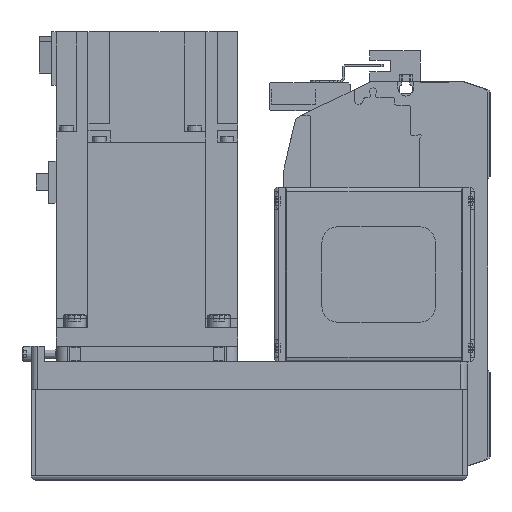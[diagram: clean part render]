
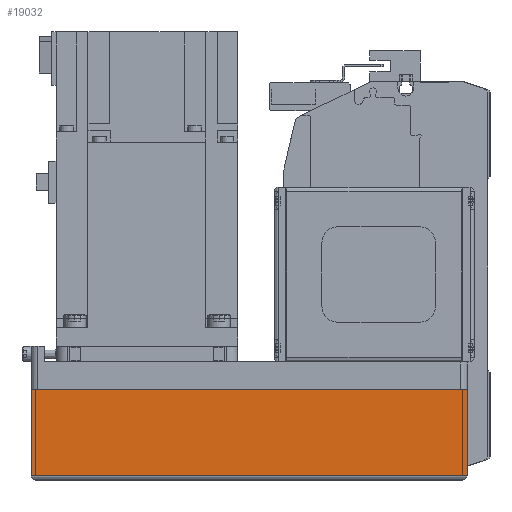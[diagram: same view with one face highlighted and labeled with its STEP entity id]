
A CAD part, left-side view. The second image highlights one B-rep face of the part: STEP entity #19032.
In plain terms, the highlighted planar face has unit normal (-1, 0, 0) as drawn and (0, -1, 0) by its records, which use the part's own axes.
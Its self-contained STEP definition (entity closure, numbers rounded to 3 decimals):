
#2958=ORIENTED_EDGE('',*,*,#7675,.F.);
#2959=ORIENTED_EDGE('',*,*,#7659,.F.);
#2960=ORIENTED_EDGE('',*,*,#7652,.T.);
#2961=ORIENTED_EDGE('',*,*,#7722,.T.);
#7652=EDGE_CURVE('',#10185,#10184,#12136,.T.);
#7659=EDGE_CURVE('',#10185,#10191,#12143,.T.);
#7675=EDGE_CURVE('',#10191,#10205,#12159,.T.);
#7722=EDGE_CURVE('',#10184,#10205,#12180,.T.);
#10184=VERTEX_POINT('',#29195);
#10185=VERTEX_POINT('',#29197);
#10191=VERTEX_POINT('',#29212);
#10205=VERTEX_POINT('',#29245);
#12136=LINE('',#29196,#13832);
#12143=LINE('',#29211,#13839);
#12159=LINE('',#29244,#13855);
#12180=LINE('',#29325,#13876);
#13832=VECTOR('',#23356,1000.);
#13839=VECTOR('',#23367,1000.);
#13855=VECTOR('',#23389,1000.);
#13876=VECTOR('',#23498,1000.);
#15390=EDGE_LOOP('',(#2958,#2959,#2960,#2961));
#16912=FACE_BOUND('',#15390,.T.);
#18265=PLANE('',#20407);
#19032=ADVANCED_FACE('',(#16912),#18265,.T.);
#20407=AXIS2_PLACEMENT_3D('',#29326,#23499,#23500);
#23356=DIRECTION('',(0.,0.,-1.));
#23367=DIRECTION('',(1.,0.,0.));
#23389=DIRECTION('',(0.,0.,-1.));
#23498=DIRECTION('',(1.,0.,0.));
#23499=DIRECTION('',(0.,-1.,0.));
#23500=DIRECTION('',(0.,0.,-1.));
#29195=CARTESIAN_POINT('',(-192.,-40.,-50.));
#29196=CARTESIAN_POINT('',(-192.,-40.,-12.1));
#29197=CARTESIAN_POINT('',(-192.,-40.,-12.1));
#29211=CARTESIAN_POINT('',(-192.,-40.,-12.1));
#29212=CARTESIAN_POINT('',(0.,-40.,-12.1));
#29244=CARTESIAN_POINT('',(0.,-40.,-12.1));
#29245=CARTESIAN_POINT('',(0.,-40.,-50.));
#29325=CARTESIAN_POINT('',(-192.,-40.,-50.));
#29326=CARTESIAN_POINT('',(-192.,-40.,-12.1));
